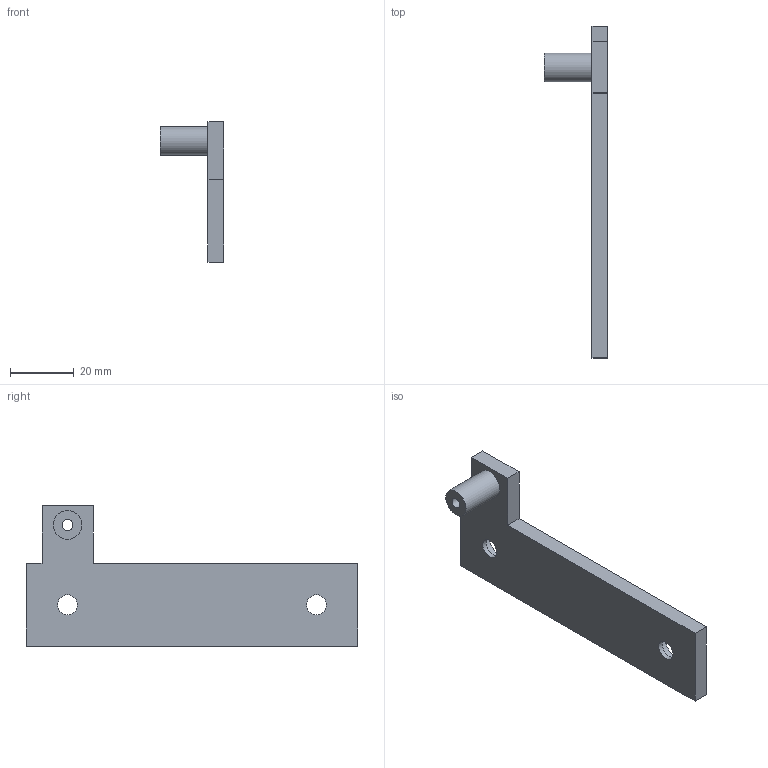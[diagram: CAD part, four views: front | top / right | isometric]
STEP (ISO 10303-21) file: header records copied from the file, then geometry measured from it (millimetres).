
FILE_DESCRIPTION(('Open CASCADE Model'),'2;1');
FILE_NAME('Open CASCADE Shape Model','2026-10-16T03:24:49',('Author'),( 'Open CASCADE'),'Open CASCADE STEP processor 7.9','Open CASCADE 7.9' ,'Unknown');
FILE_SCHEMA(('AUTOMOTIVE_DESIGN { 1 0 10303 214 1 1 1 1 }'));
Length unit declared in the file: millimetre
Products named in the file (1): Open CASCADE STEP translator 7.9 4
Bounding box: 20 x 104 x 44 mm (x, y, z)
Volume: 14976.9 mm3; surface area: 8263.2 mm2
Topology: 1 solids, 1 shells, 19 faces, 42 edges, 28 vertices
Faces by surface type: plane 13, cylinder 6
Full cylindrical faces by diameter (mm): 3.4 x1, 6.2 x2, 9 x1, 11 x2
Entity records: 1116 total; most frequent: CARTESIAN_POINT 226, DIRECTION 166, LINE 98, VECTOR 98, ORIENTED_EDGE 84, PCURVE 84, DEFINITIONAL_REPRESENTATION 84, EDGE_CURVE 42
